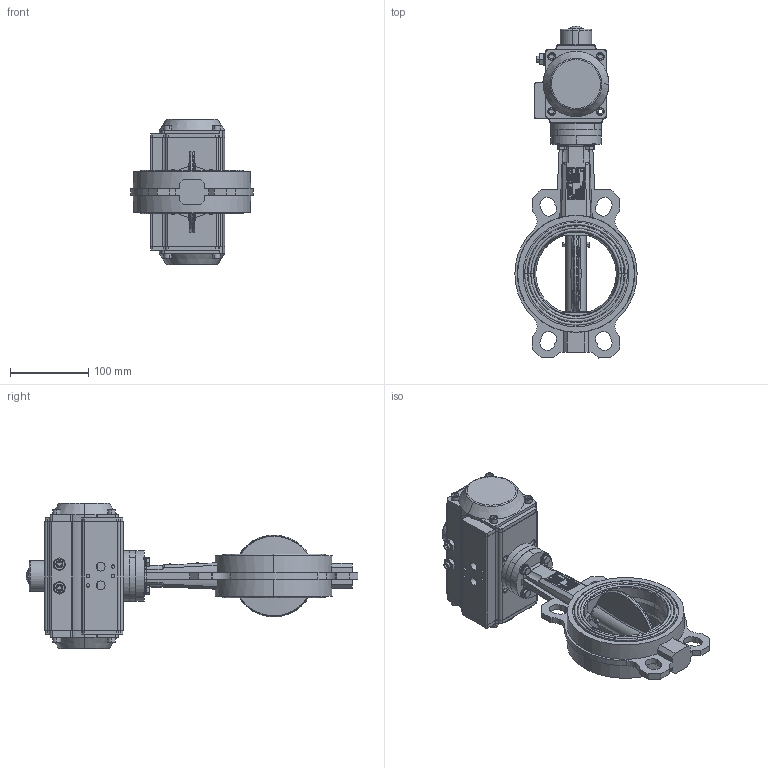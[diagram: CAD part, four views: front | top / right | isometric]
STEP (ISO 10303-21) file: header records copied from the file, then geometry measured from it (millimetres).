
FILE_DESCRIPTION (( 'STEP AP214' ), '1' );
FILE_NAME ('VPG444X-N03XX0100.step', '2022-06-27T15:41:06', ( '' ), ( '' ), 'SwSTEP 2.0', 'SolidWorks 2020', '' );
FILE_SCHEMA (( 'AUTOMOTIVE_DESIGN' ));
Length unit declared in the file: millimetre
Products named in the file (1): VPG444X-N03XX0100
Bounding box: 156 x 423.43 x 186 mm (x, y, z)
Surface area: 241303.2 mm2 (no closed solid volume)
Topology: 0 solids, 86 shells, 769 faces, 4436 edges, 3745 vertices
Faces by surface type: plane 366, cylinder 207, bspline 102, cone 90, torus 4
Entity records: 70678 total; most frequent: CARTESIAN_POINT 31001, ORIENTED_EDGE 5955, DIRECTION 5176, EDGE_CURVE 4432, VERTEX_POINT 3745, LINE 2344, VECTOR 2344, AXIS2_PLACEMENT_3D 1416
